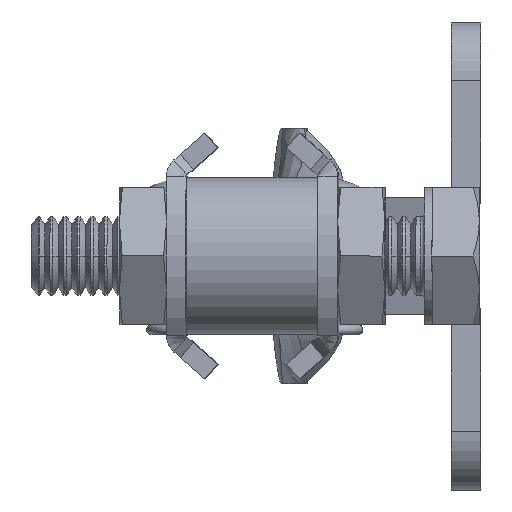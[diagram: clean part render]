
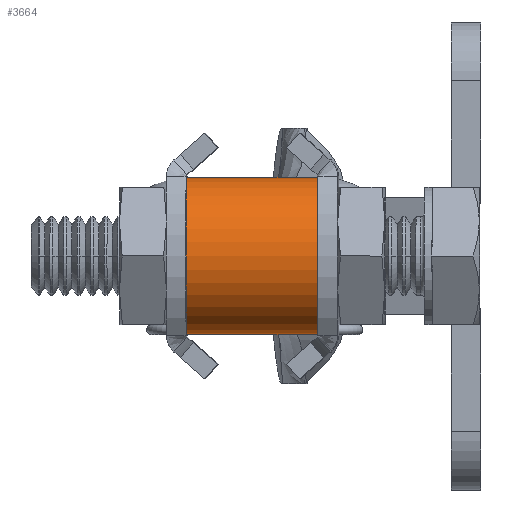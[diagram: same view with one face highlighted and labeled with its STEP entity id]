
A CAD part, left-side view. The second image highlights one B-rep face of the part: STEP entity #3664.
In plain terms, the highlighted cylindrical face has radius 4 mm (diameter 8 mm), a partial arc.
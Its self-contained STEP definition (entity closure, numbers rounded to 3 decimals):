
#650 = DIRECTION ( 'NONE',  ( 0., -1., 0. ) ) ;
#654 = CIRCLE ( 'NONE', #9387, 4. ) ;
#1078 = EDGE_CURVE ( 'NONE', #13547, #6004, #5335, .T. ) ;
#1267 = EDGE_CURVE ( 'NONE', #7896, #6004, #11725, .T. ) ;
#1768 = VERTEX_POINT ( 'NONE', #9171 ) ;
#1888 = AXIS2_PLACEMENT_3D ( 'NONE', #9581, #650, #5715 ) ;
#2053 = DIRECTION ( 'NONE',  ( 0., -1., 0. ) ) ;
#2450 = CARTESIAN_POINT ( 'NONE',  ( -24.89, 3.35, -4. ) ) ;
#2966 = FACE_OUTER_BOUND ( 'NONE', #4430, .T. ) ;
#3121 = VECTOR ( 'NONE', #3266, 1000. ) ;
#3266 = DIRECTION ( 'NONE',  ( 0., -1., 0. ) ) ;
#3664 = ADVANCED_FACE ( 'NONE', ( #2966 ), #11102, .T. ) ;
#3981 = DIRECTION ( 'NONE',  ( 0., -1., 0. ) ) ;
#4330 = EDGE_CURVE ( 'NONE', #1768, #13547, #9002, .T. ) ;
#4381 = CARTESIAN_POINT ( 'NONE',  ( -24.89, -3.35, -4. ) ) ;
#4430 = EDGE_LOOP ( 'NONE', ( #14302, #7708, #12561, #11507 ) ) ;
#4442 = CARTESIAN_POINT ( 'NONE',  ( -24.89, 3.35, 0. ) ) ;
#5102 = CARTESIAN_POINT ( 'NONE',  ( -24.89, 6.2, 0. ) ) ;
#5335 = CIRCLE ( 'NONE', #1888, 4. ) ;
#5542 = DIRECTION ( 'NONE',  ( -1., 0., 0. ) ) ;
#5715 = DIRECTION ( 'NONE',  ( 0., 0., -1. ) ) ;
#6004 = VERTEX_POINT ( 'NONE', #4381 ) ;
#6198 = VECTOR ( 'NONE', #2053, 1000. ) ;
#7329 = DIRECTION ( 'NONE',  ( 0., 0., -1. ) ) ;
#7434 = CARTESIAN_POINT ( 'NONE',  ( -24.89, 6.2, -4. ) ) ;
#7448 = CARTESIAN_POINT ( 'NONE',  ( -24.89, -3.35, 4. ) ) ;
#7708 = ORIENTED_EDGE ( 'NONE', *, *, #1267, .T. ) ;
#7896 = VERTEX_POINT ( 'NONE', #2450 ) ;
#8203 = AXIS2_PLACEMENT_3D ( 'NONE', #5102, #3981, #7329 ) ;
#9002 = LINE ( 'NONE', #9903, #3121 ) ;
#9171 = CARTESIAN_POINT ( 'NONE',  ( -24.89, 3.35, 4. ) ) ;
#9387 = AXIS2_PLACEMENT_3D ( 'NONE', #4442, #12181, #5542 ) ;
#9581 = CARTESIAN_POINT ( 'NONE',  ( -24.89, -3.35, 0. ) ) ;
#9903 = CARTESIAN_POINT ( 'NONE',  ( -24.89, 6.2, 4. ) ) ;
#11102 = CYLINDRICAL_SURFACE ( 'NONE', #8203, 4. ) ;
#11507 = ORIENTED_EDGE ( 'NONE', *, *, #4330, .F. ) ;
#11725 = LINE ( 'NONE', #7434, #6198 ) ;
#12181 = DIRECTION ( 'NONE',  ( 0., 1., 0. ) ) ;
#12561 = ORIENTED_EDGE ( 'NONE', *, *, #1078, .F. ) ;
#13547 = VERTEX_POINT ( 'NONE', #7448 ) ;
#13707 = EDGE_CURVE ( 'NONE', #7896, #1768, #654, .T. ) ;
#14302 = ORIENTED_EDGE ( 'NONE', *, *, #13707, .F. ) ;
